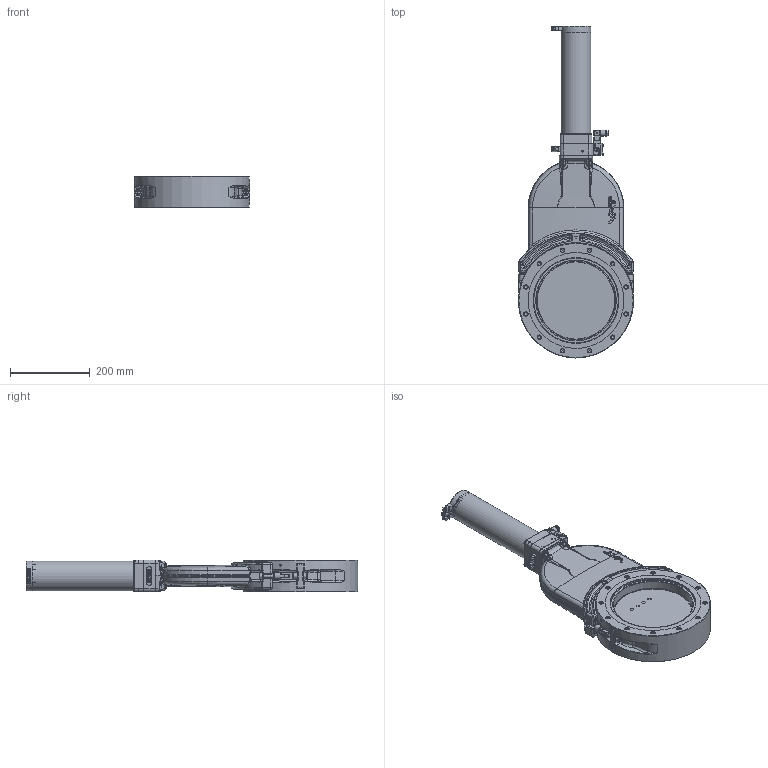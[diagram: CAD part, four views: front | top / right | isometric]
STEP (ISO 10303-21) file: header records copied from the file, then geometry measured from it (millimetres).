
FILE_DESCRIPTION(/* description */ (''),/* implementation_level */ '2;1');
FILE_NAME(/* name */ '1085754236_203.stp',/* time_stamp */ '2020-04-15T13:21:13+02:00',/* author */ (''),/* organization */ (''),/* preprocessor_version */ 'ST-DEVELOPER v16.7',/* originating_system */ 'SIEMENS PLM Software NX 1899',/* authorisation */ '');
FILE_SCHEMA (('AP203_CONFIGURATION_CONTROLLED_3D_DESIGN_OF_MECHANICAL_PARTS_AND_ASSEMBLIES_MIM_LF { 1 0 10303 403 2 1 2}'));
Products named in the file (56): 212971.9; 212973.6; 212981.6_31953ID; 92838-01_2.2; 92838-01_3.2; 80477-01.1; N-7100-005_2.1; 80478-01.1; N-6195-007.2; 93115-01.1; 87105-01.1; 237913.3_31834ID; 73662-01.1; 467882; 437235; 213270_2.3; 212972.8_31998ID; n-6013-460.1; 232883.1_31880ID; N-6091-487.1; 218183.1; 231510.2; 237900.1; 237904.1; 213005.2; 213006.3; N-6121-026.2; 211950.1; 214173.2; 77379-01.1; N-6016-478.2; N-7557-016_1.1; N-7557-018.1; N-7557-016_2.1; N-6024-524.1; N-5018-005.1; 213003.1; 213194.1; 213193.1; 213004_1.1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
Assembly tree (84 placements, depth 4):
  213011
    213004_1.1  x2
    213193.1  x4
    94800-r1.7_NX-ARRAGMNTKONFIG1
      N-5018-005.1  x2
      N-6024-524.1  x6
      N-7557-016_2.1
      N-7557-018.1
      N-7557-016_1.1
      N-7557-016_3.1_MODELNX-ARRAGMNTArrangement 1
        437235
        467882
    213194.1  x2
    213003.1  x2
    78855-r1.9_NX-ARRAGMNTMassbild, alle Innenteile unterdrueckt  x2
      N-6016-478.2
      78856-R1.3
        73662-01.1
      77379-01.1
    213000.7_NX-ARRAGMNTVB (gerade) gestreckt  x2
      214173.2
      211950.1
      N-6121-026.2
      213006.3
      213005.2
    238007.18_NX-ARRAGMNTCLOSE MASSBILD Innenteile+Stange unterdrueckt
      237904.1
      237908.3_MODEL
        237913.3_31834ID
      237900.1
      231510.2
      87090-R1.22_NX-ARRAGMNTbetaetigt Hub 5mm max (mit Feder)
        87105-01.1
        93115-01.1
        N-6195-007.2
        80478-01.1
        N-7100-005_2.1
        80477-01.1
        92838-01_3.2
      218183.1  x4
      87090-R1.22_NX-ARRAGMNToffen_213913 Hub 4,45mm (mit Feder)
        87105-01.1
        93115-01.1
        N-6195-007.2
        80478-01.1
        N-7100-005_2.1
        80477-01.1
        92838-01_2.2
    583342
      N-6091-487.1  x2
      263423.9
        212981.6_31953ID
    212984.9
      232883.1_31880ID
    932914_MODELNX-ARRAGMNTHO verrriegelt (Innenteile unterdrückt, Ku
gelbahnen u.a. Flächen entfernt)
      n-6013-460.1  x4
      212972.8_31998ID
      212968.6
        212973.6
      213270_2.3  x2
Bounding box: 289.96 x 831.8 x 80 mm (x, y, z)
Volume: 4326238.1 mm3; surface area: 985621.7 mm2
Topology: 80 solids, 80 shells, 3927 faces, 9755 edges, 6139 vertices
Faces by surface type: plane 1647, bspline 833, cylinder 789, cone 277, extrusion 194, torus 160, sphere 23, revolution 4
Full cylindrical faces by diameter (mm): 1.875 x2, 2.115 x8, 2.475 x6, 2.5 x6, 2.56 x2, 2.575 x2, 3 x13, 3.2 x4, 3.3 x6, 3.4 x4, 3.5 x13, 4 x6, 4.1 x2, 4.2 x6, 4.22 x1, 4.3 x2, 4.4 x4, 4.7 x4, 5 x7, 5.4 x5, 5.5 x2, 5.6 x2, 5.65 x2, 5.7 x2, 5.8 x4, 5.92 x2, 6 x10, 6.008 x2, 6.2 x2, 6.475 x2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
Entity records: 138280 total; most frequent: CARTESIAN_POINT 57965, ORIENTED_EDGE 15454, DIRECTION 12339, EDGE_CURVE 7727, VERTEX_POINT 5112, AXIS2_PLACEMENT_3D 4740, EDGE_LOOP 4049, ADVANCED_FACE 3326
